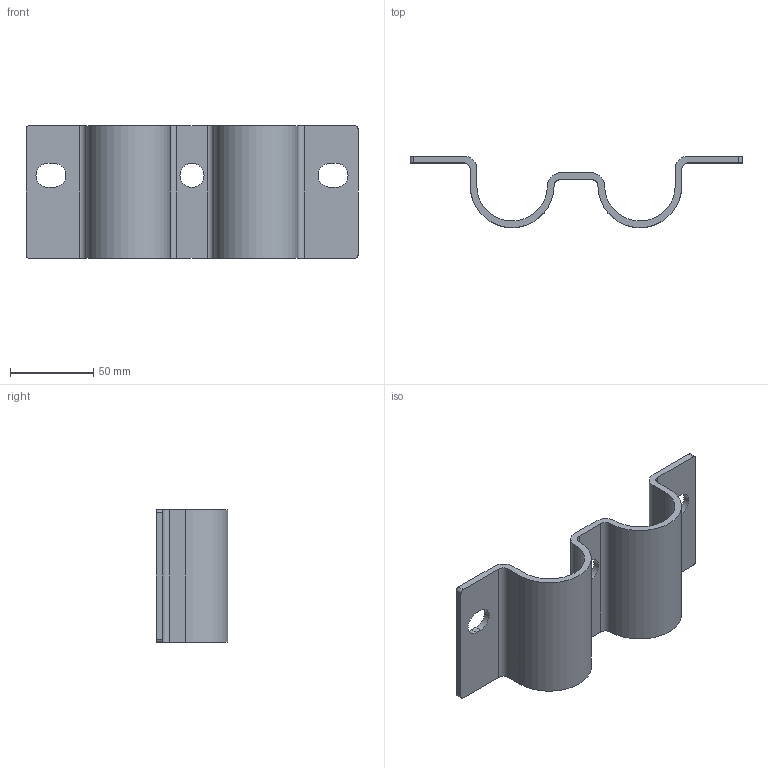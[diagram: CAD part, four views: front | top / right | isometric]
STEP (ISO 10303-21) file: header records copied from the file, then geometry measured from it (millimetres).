
FILE_DESCRIPTION((''),'2;1');
FILE_NAME('S:\Användarkataloger\AndreasA\Mina Inventor filer\Räcken\STEP\fäste_r2.stp','2010-09-07T13:56:52',('AndreasA'),(''),'Autodesk Inventor 2011','Autodesk Inventor 2011','');
FILE_SCHEMA(('AUTOMOTIVE_DESIGN { 1 0 10303 214 1 1 1 1 }'));
Length unit declared in the file: millimetre
Products named in the file (1): fäste_r2
Bounding box: 200 x 43 x 80 mm (x, y, z)
Volume: 89050 mm3; surface area: 48040.2 mm2
Topology: 1 solids, 1 shells, 39 faces, 112 edges, 75 vertices
Faces by surface type: cylinder 21, plane 18
Full cylindrical faces by diameter (mm): 14.5 x1
Entity records: 1320 total; most frequent: DIRECTION 232, CARTESIAN_POINT 224, ORIENTED_EDGE 220, EDGE_CURVE 110, AXIS2_PLACEMENT_3D 82, VERTEX_POINT 74, VECTOR 68, LINE 68
